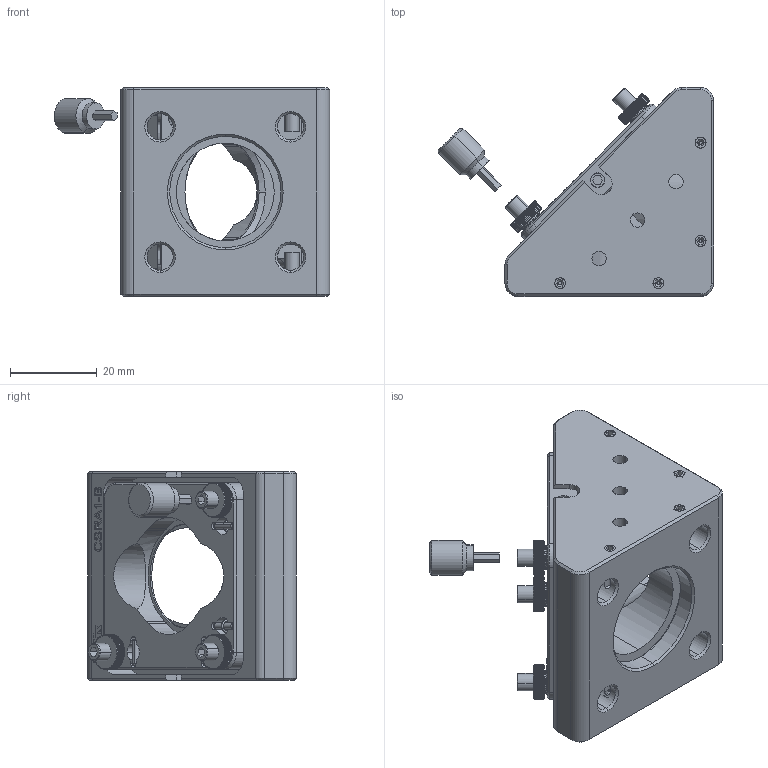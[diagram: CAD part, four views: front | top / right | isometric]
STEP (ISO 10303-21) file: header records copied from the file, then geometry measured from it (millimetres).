
FILE_DESCRIPTION (( 'STEP AP203' ), '1' );
FILE_NAME ('CSRA1-B.STEP', '2023-11-24T04:55:23', ( '' ), ( '' ), 'SwSTEP 2.0', 'SolidWorks 2021', '' );
FILE_SCHEMA (( 'CONFIG_CONTROL_DESIGN' ));
Length unit declared in the file: millimetre
Products named in the file (1): CSRA1-B
Bounding box: 63.31 x 48 x 48 mm (x, y, z)
Surface area: 20982.5 mm2 (no closed solid volume)
Topology: 0 solids, 61 shells, 1115 faces, 3643 edges, 2552 vertices
Faces by surface type: plane 616, cylinder 348, cone 134, bspline 17
Entity records: 53155 total; most frequent: CARTESIAN_POINT 22712, ORIENTED_EDGE 6453, DIRECTION 5732, EDGE_CURVE 3627, VERTEX_POINT 2552, AXIS2_PLACEMENT_3D 2022, VECTOR 1688, LINE 1688
